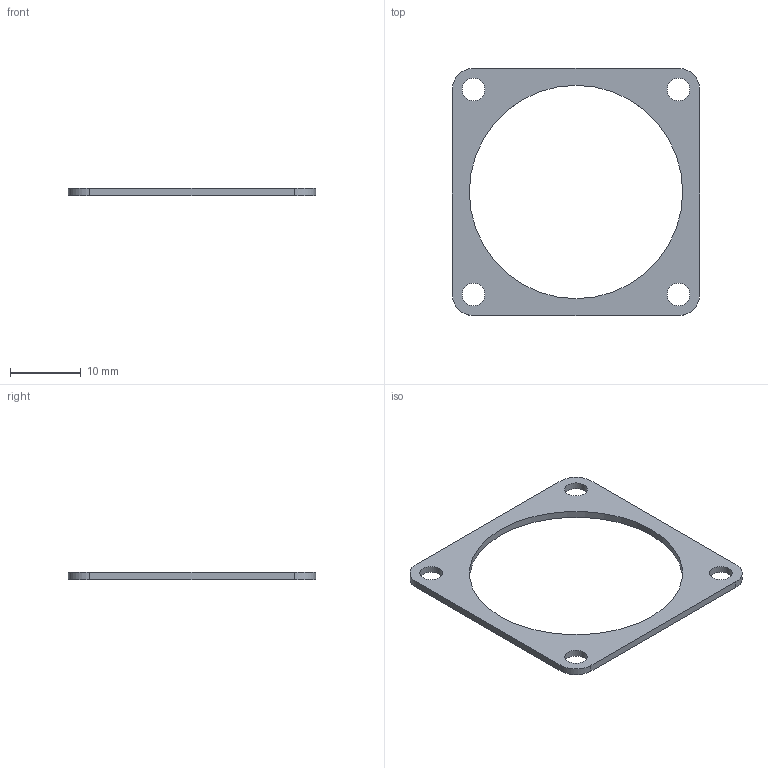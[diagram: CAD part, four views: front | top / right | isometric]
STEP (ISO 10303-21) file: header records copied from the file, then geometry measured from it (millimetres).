
FILE_DESCRIPTION (( 'STEP AP203' ), '1' );
FILE_NAME ('EB-25FG(R1).STEP', '2021-08-11T00:06:43', ( '' ), ( '' ), 'SwSTEP 2.0', 'SolidWorks 2018', '' );
FILE_SCHEMA (( 'CONFIG_CONTROL_DESIGN' ));
Length unit declared in the file: millimetre
Products named in the file (1): EB-25FG(R1)
Bounding box: 35 x 35 x 1 mm (x, y, z)
Volume: 468.8 mm3; surface area: 1207.5 mm2
Topology: 1 solids, 1 shells, 15 faces, 39 edges, 26 vertices
Faces by surface type: cylinder 9, plane 6
Full cylindrical faces by diameter (mm): 3.2 x4, 30.2 x1
Entity records: 543 total; most frequent: DIRECTION 84, CARTESIAN_POINT 76, ORIENTED_EDGE 68, EDGE_CURVE 34, AXIS2_PLACEMENT_3D 34, EDGE_LOOP 30, VERTEX_POINT 26, FACE_OUTER_BOUND 20
